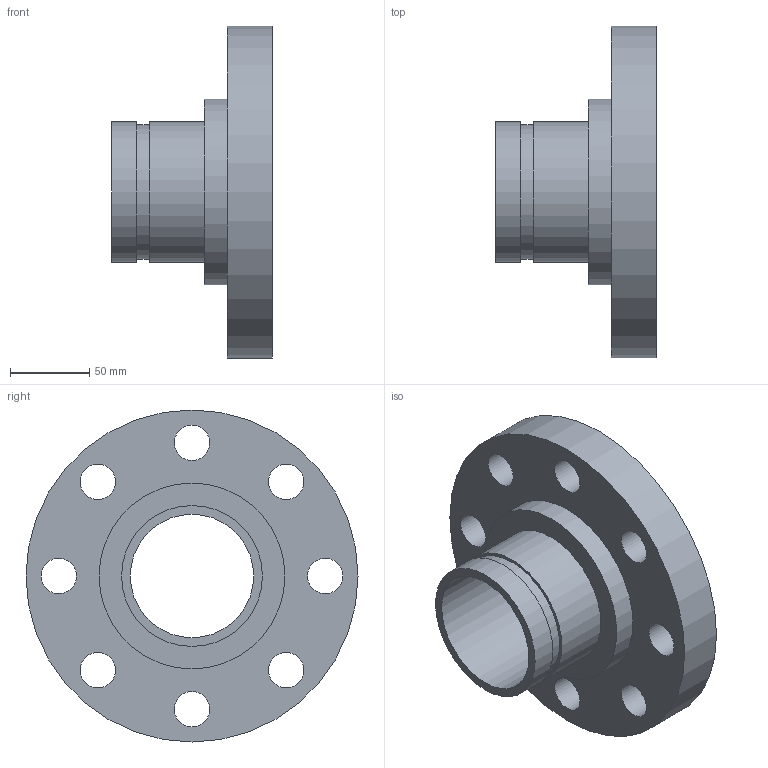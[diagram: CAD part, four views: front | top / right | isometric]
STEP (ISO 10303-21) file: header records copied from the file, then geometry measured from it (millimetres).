
FILE_DESCRIPTION(/* description */ ('VIC FLANGE ADAPTER No 46F','CAx-IF Rec.Pracs.---Representation and Presentation of Product Manufacturing Information (PMI)---4.0---2014-10-13'),/* implementation_level */ '2;1');
FILE_NAME(/* name */ 'C:\Users\kkamble\AppData\Roaming\Autodesk\ApplicationPlugins\Back Up\Victaulic_IPS_Flanged Adapter Nipple_CL 300 FF_No 46F (OGSxFLG)\Victaulic_IPS_Flanged Adapter Nipple_CL 300 FF_No 46F (OGSxFLG)_3 (80).stp',/* time_stamp */ '2020-07-26T22:24:47+06:00',/* author */ ('CONSTRUCTION PIPING SERVICES'),/* organization */ ('Victaulic'),/* preprocessor_version */ 'ST-DEVELOPER v17.2',/* originating_system */ 'Autodesk Inventor 2019',/* authorisation */ '');
FILE_SCHEMA (('AP242_MANAGED_MODEL_BASED_3D_ENGINEERING_MIM_LF { 1 0 10303 442 1 1 4 }'));
Length unit declared in the file: inch
Products named in the file (1): 046F-03.0
Bounding box: 101.6 x 209.55 x 209.55 mm (x, y, z)
Volume: 923713 mm3; surface area: 135448.1 mm2
Topology: 1 solids, 1 shells, 20 faces, 54 edges, 40 vertices
Faces by surface type: cylinder 14, plane 6
Full cylindrical faces by diameter (mm): 22.352 x8, 77.927 x1, 84.938 x1, 88.9 x2, 117.348 x1, 209.55 x1
Entity records: 782 total; most frequent: DIRECTION 136, CARTESIAN_POINT 115, ORIENTED_EDGE 108, AXIS2_PLACEMENT_3D 61, EDGE_CURVE 54, EDGE_LOOP 42, CIRCLE 40, VERTEX_POINT 40
